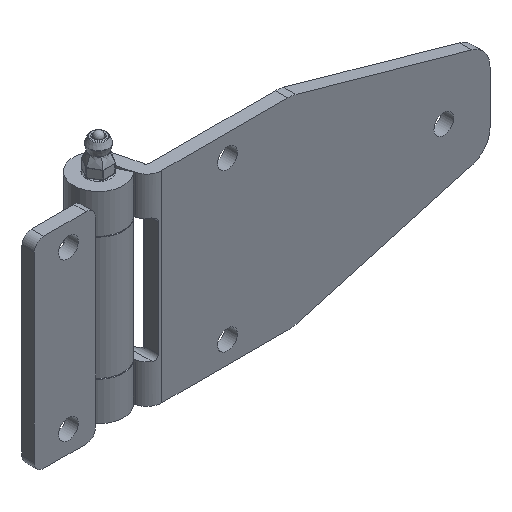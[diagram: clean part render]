
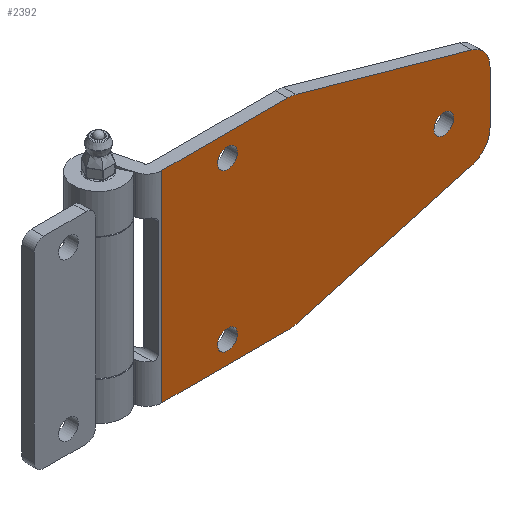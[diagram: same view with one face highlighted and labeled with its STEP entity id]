
A CAD part, isometric view. The second image highlights one B-rep face of the part: STEP entity #2392.
In plain terms, the highlighted planar face has unit normal (0, -1, 0).
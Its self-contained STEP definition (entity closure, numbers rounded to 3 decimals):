
#63=FACE_BOUND('',#787,.T.);
#64=FACE_BOUND('',#788,.T.);
#65=FACE_BOUND('',#789,.T.);
#96=PLANE('',#2588);
#223=LINE('',#4685,#375);
#229=LINE('',#4700,#381);
#231=LINE('',#4706,#383);
#232=LINE('',#4710,#384);
#233=LINE('',#4714,#385);
#234=LINE('',#4717,#386);
#375=VECTOR('',#3016,10.);
#381=VECTOR('',#3034,10.);
#383=VECTOR('',#3040,10.);
#384=VECTOR('',#3043,10.);
#385=VECTOR('',#3046,10.);
#386=VECTOR('',#3049,10.);
#648=FACE_OUTER_BOUND('',#786,.T.);
#786=EDGE_LOOP('',(#1966,#1967,#1968,#1969,#1970,#1971,#1972,#1973,#1974,
#1975));
#787=EDGE_LOOP('',(#1976));
#788=EDGE_LOOP('',(#1977));
#789=EDGE_LOOP('',(#1978));
#873=CIRCLE('',#2534,3.2);
#875=CIRCLE('',#2537,3.2);
#877=CIRCLE('',#2540,3.2);
#896=CIRCLE('',#2585,10.);
#898=CIRCLE('',#2589,8.);
#899=CIRCLE('',#2590,8.);
#900=CIRCLE('',#2591,10.);
#1012=VERTEX_POINT('',#4170);
#1014=VERTEX_POINT('',#4176);
#1016=VERTEX_POINT('',#4182);
#1094=VERTEX_POINT('',#4682);
#1095=VERTEX_POINT('',#4684);
#1097=VERTEX_POINT('',#4694);
#1098=VERTEX_POINT('',#4695);
#1100=VERTEX_POINT('',#4705);
#1101=VERTEX_POINT('',#4707);
#1102=VERTEX_POINT('',#4709);
#1103=VERTEX_POINT('',#4711);
#1104=VERTEX_POINT('',#4713);
#1105=VERTEX_POINT('',#4715);
#1279=EDGE_CURVE('',#1012,#1012,#873,.T.);
#1282=EDGE_CURVE('',#1014,#1014,#875,.T.);
#1285=EDGE_CURVE('',#1016,#1016,#877,.T.);
#1398=EDGE_CURVE('',#1094,#1095,#223,.T.);
#1403=EDGE_CURVE('',#1097,#1098,#896,.T.);
#1406=EDGE_CURVE('',#1094,#1098,#229,.T.);
#1409=EDGE_CURVE('',#1097,#1100,#231,.T.);
#1410=EDGE_CURVE('',#1101,#1100,#898,.T.);
#1411=EDGE_CURVE('',#1101,#1102,#232,.T.);
#1412=EDGE_CURVE('',#1103,#1102,#899,.T.);
#1413=EDGE_CURVE('',#1103,#1104,#233,.T.);
#1414=EDGE_CURVE('',#1105,#1104,#900,.T.);
#1415=EDGE_CURVE('',#1095,#1105,#234,.T.);
#1966=ORIENTED_EDGE('',*,*,#1403,.F.);
#1967=ORIENTED_EDGE('',*,*,#1409,.T.);
#1968=ORIENTED_EDGE('',*,*,#1410,.F.);
#1969=ORIENTED_EDGE('',*,*,#1411,.T.);
#1970=ORIENTED_EDGE('',*,*,#1412,.F.);
#1971=ORIENTED_EDGE('',*,*,#1413,.T.);
#1972=ORIENTED_EDGE('',*,*,#1414,.F.);
#1973=ORIENTED_EDGE('',*,*,#1415,.F.);
#1974=ORIENTED_EDGE('',*,*,#1398,.F.);
#1975=ORIENTED_EDGE('',*,*,#1406,.T.);
#1976=ORIENTED_EDGE('',*,*,#1279,.T.);
#1977=ORIENTED_EDGE('',*,*,#1282,.T.);
#1978=ORIENTED_EDGE('',*,*,#1285,.T.);
#2392=ADVANCED_FACE('',(#648,#63,#64,#65),#96,.T.);
#2534=AXIS2_PLACEMENT_3D('',#4172,#2861,#2862);
#2537=AXIS2_PLACEMENT_3D('',#4178,#2868,#2869);
#2540=AXIS2_PLACEMENT_3D('',#4184,#2875,#2876);
#2585=AXIS2_PLACEMENT_3D('',#4696,#3028,#3029);
#2588=AXIS2_PLACEMENT_3D('',#4704,#3038,#3039);
#2589=AXIS2_PLACEMENT_3D('',#4708,#3041,#3042);
#2590=AXIS2_PLACEMENT_3D('',#4712,#3044,#3045);
#2591=AXIS2_PLACEMENT_3D('',#4716,#3047,#3048);
#2861=DIRECTION('center_axis',(0.,1.,0.));
#2862=DIRECTION('ref_axis',(1.,0.,0.));
#2868=DIRECTION('center_axis',(0.,1.,0.));
#2869=DIRECTION('ref_axis',(1.,0.,0.));
#2875=DIRECTION('center_axis',(0.,1.,0.));
#2876=DIRECTION('ref_axis',(1.,0.,0.));
#3016=DIRECTION('',(0.,0.,1.));
#3028=DIRECTION('center_axis',(0.,1.,0.));
#3029=DIRECTION('ref_axis',(0.137,0.,-0.991));
#3034=DIRECTION('',(1.,0.,0.));
#3038=DIRECTION('center_axis',(0.,-1.,0.));
#3039=DIRECTION('ref_axis',(1.,0.,0.));
#3040=DIRECTION('',(0.963,0.,0.271));
#3041=DIRECTION('center_axis',(0.,1.,0.));
#3042=DIRECTION('ref_axis',(0.797,0.,-0.604));
#3043=DIRECTION('',(0.,0.,1.));
#3044=DIRECTION('center_axis',(0.,1.,0.));
#3045=DIRECTION('ref_axis',(0.797,0.,0.604));
#3046=DIRECTION('',(-0.963,0.,0.271));
#3047=DIRECTION('center_axis',(0.,1.,0.));
#3048=DIRECTION('ref_axis',(0.137,0.,0.991));
#3049=DIRECTION('',(1.,0.,0.));
#4170=CARTESIAN_POINT('',(-88.016,0.,57.9));
#4172=CARTESIAN_POINT('Origin',(-84.816,0.,
57.9));
#4176=CARTESIAN_POINT('',(-18.116,0.,32.5));
#4178=CARTESIAN_POINT('Origin',(-14.916,0.,
32.5));
#4182=CARTESIAN_POINT('',(-88.016,0.,7.1));
#4184=CARTESIAN_POINT('Origin',(-84.816,0.,
7.1));
#4682=CARTESIAN_POINT('',(-106.,0.,0.));
#4684=CARTESIAN_POINT('',(-106.,0.,65.));
#4685=CARTESIAN_POINT('',(-106.,0.,0.));
#4694=CARTESIAN_POINT('',(-62.672,0.,0.373));
#4695=CARTESIAN_POINT('',(-65.379,0.,0.));
#4696=CARTESIAN_POINT('Origin',(-65.379,0.,
10.));
#4700=CARTESIAN_POINT('',(-106.,0.,0.));
#4704=CARTESIAN_POINT('Origin',(-106.,0.,0.));
#4705=CARTESIAN_POINT('',(-5.834,0.,16.359));
#4706=CARTESIAN_POINT('',(-51.461,0.,3.527));
#4707=CARTESIAN_POINT('',(0.,0.,24.06));
#4708=CARTESIAN_POINT('Origin',(-8.,0.,24.06));
#4709=CARTESIAN_POINT('',(0.,0.,40.94));
#4710=CARTESIAN_POINT('',(0.,0.,0.));
#4711=CARTESIAN_POINT('',(-5.834,0.,48.641));
#4712=CARTESIAN_POINT('Origin',(-8.,0.,40.94));
#4713=CARTESIAN_POINT('',(-62.672,0.,64.627));
#4714=CARTESIAN_POINT('',(-74.99,0.,68.091));
#4715=CARTESIAN_POINT('',(-65.379,0.,65.));
#4716=CARTESIAN_POINT('Origin',(-65.379,0.,
55.));
#4717=CARTESIAN_POINT('',(-106.,0.,65.));
